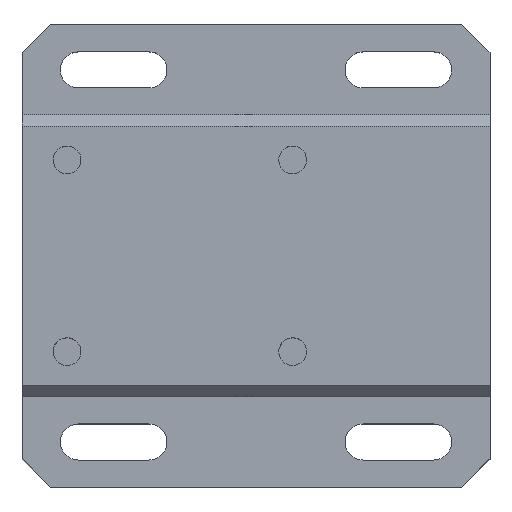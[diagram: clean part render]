
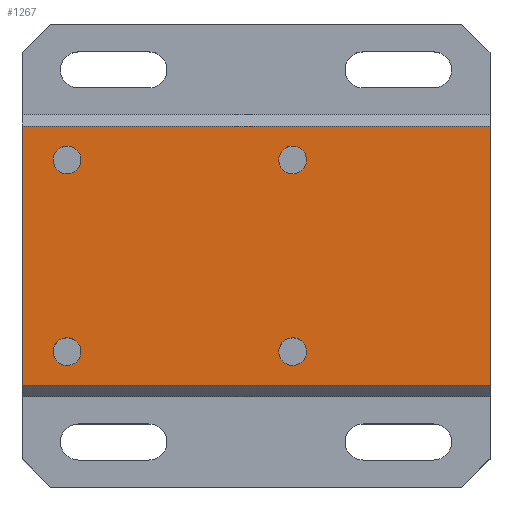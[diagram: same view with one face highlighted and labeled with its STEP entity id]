
A CAD part, top view. The second image highlights one B-rep face of the part: STEP entity #1267.
In plain terms, the highlighted planar face has unit normal (0, 0, 1).
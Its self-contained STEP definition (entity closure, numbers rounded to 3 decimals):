
#567=CARTESIAN_POINT('Axis2P3D Location',(-33.5,17.,31.9)) ;
#571=CARTESIAN_POINT('Vertex',(-31.342,15.821,31.9)) ;
#573=CARTESIAN_POINT('Vertex',(-35.658,18.179,31.9)) ;
#593=CARTESIAN_POINT('Axis2P3D Location',(-33.5,17.,31.9)) ;
#629=CARTESIAN_POINT('Axis2P3D Location',(6.5,-17.,31.9)) ;
#633=CARTESIAN_POINT('Vertex',(4.342,-15.821,31.9)) ;
#635=CARTESIAN_POINT('Vertex',(8.658,-18.179,31.9)) ;
#655=CARTESIAN_POINT('Axis2P3D Location',(6.5,-17.,31.9)) ;
#691=CARTESIAN_POINT('Axis2P3D Location',(-33.5,-17.,31.9)) ;
#695=CARTESIAN_POINT('Vertex',(-35.658,-15.821,31.9)) ;
#697=CARTESIAN_POINT('Vertex',(-31.342,-18.179,31.9)) ;
#717=CARTESIAN_POINT('Axis2P3D Location',(-33.5,-17.,31.9)) ;
#753=CARTESIAN_POINT('Axis2P3D Location',(6.5,17.,31.9)) ;
#757=CARTESIAN_POINT('Vertex',(4.342,18.179,31.9)) ;
#759=CARTESIAN_POINT('Vertex',(8.658,15.821,31.9)) ;
#779=CARTESIAN_POINT('Axis2P3D Location',(6.5,17.,31.9)) ;
#1164=CARTESIAN_POINT('Line Origine',(0.,-23.,31.9)) ;
#1168=CARTESIAN_POINT('Vertex',(-41.5,-23.,31.9)) ;
#1170=CARTESIAN_POINT('Vertex',(41.5,-23.,31.9)) ;
#1221=CARTESIAN_POINT('Axis2P3D Location',(0.,0.,31.9)) ;
#1226=CARTESIAN_POINT('Line Origine',(-41.5,0.,31.9)) ;
#1230=CARTESIAN_POINT('Vertex',(-41.5,23.,31.9)) ;
#1233=CARTESIAN_POINT('Line Origine',(41.5,0.,31.9)) ;
#1237=CARTESIAN_POINT('Vertex',(41.5,23.,31.9)) ;
#1240=CARTESIAN_POINT('Line Origine',(0.,23.,31.9)) ;
#568=DIRECTION('Axis2P3D Direction',(0.,-0.,-1.)) ;
#594=DIRECTION('Axis2P3D Direction',(0.,-0.,-1.)) ;
#630=DIRECTION('Axis2P3D Direction',(0.,0.,-1.)) ;
#656=DIRECTION('Axis2P3D Direction',(0.,0.,-1.)) ;
#692=DIRECTION('Axis2P3D Direction',(0.,0.,-1.)) ;
#718=DIRECTION('Axis2P3D Direction',(0.,0.,-1.)) ;
#754=DIRECTION('Axis2P3D Direction',(0.,0.,-1.)) ;
#780=DIRECTION('Axis2P3D Direction',(0.,0.,-1.)) ;
#1165=DIRECTION('Vector Direction',(-1.,0.,0.)) ;
#1222=DIRECTION('Axis2P3D Direction',(0.,0.,1.)) ;
#1223=DIRECTION('Axis2P3D XDirection',(1.,0.,0.)) ;
#1227=DIRECTION('Vector Direction',(0.,-1.,0.)) ;
#1234=DIRECTION('Vector Direction',(0.,1.,0.)) ;
#1241=DIRECTION('Vector Direction',(1.,0.,0.)) ;
#569=AXIS2_PLACEMENT_3D('Circle Axis2P3D',#567,#568,$) ;
#595=AXIS2_PLACEMENT_3D('Circle Axis2P3D',#593,#594,$) ;
#631=AXIS2_PLACEMENT_3D('Circle Axis2P3D',#629,#630,$) ;
#657=AXIS2_PLACEMENT_3D('Circle Axis2P3D',#655,#656,$) ;
#693=AXIS2_PLACEMENT_3D('Circle Axis2P3D',#691,#692,$) ;
#719=AXIS2_PLACEMENT_3D('Circle Axis2P3D',#717,#718,$) ;
#755=AXIS2_PLACEMENT_3D('Circle Axis2P3D',#753,#754,$) ;
#781=AXIS2_PLACEMENT_3D('Circle Axis2P3D',#779,#780,$) ;
#1224=AXIS2_PLACEMENT_3D('Plane Axis2P3D',#1221,#1222,#1223) ;
#1246=ORIENTED_EDGE('',*,*,#1232,.T.) ;
#1247=ORIENTED_EDGE('',*,*,#1172,.T.) ;
#1248=ORIENTED_EDGE('',*,*,#1239,.T.) ;
#1249=ORIENTED_EDGE('',*,*,#1244,.T.) ;
#1252=ORIENTED_EDGE('',*,*,#597,.F.) ;
#1253=ORIENTED_EDGE('',*,*,#575,.F.) ;
#1256=ORIENTED_EDGE('',*,*,#783,.F.) ;
#1257=ORIENTED_EDGE('',*,*,#761,.F.) ;
#1260=ORIENTED_EDGE('',*,*,#721,.F.) ;
#1261=ORIENTED_EDGE('',*,*,#699,.F.) ;
#1264=ORIENTED_EDGE('',*,*,#659,.F.) ;
#1265=ORIENTED_EDGE('',*,*,#637,.F.) ;
#1254=FACE_BOUND('',#1251,.T.) ;
#1258=FACE_BOUND('',#1255,.T.) ;
#1262=FACE_BOUND('',#1259,.T.) ;
#1266=FACE_BOUND('',#1263,.T.) ;
#1166=VECTOR('Line Direction',#1165,1.) ;
#1228=VECTOR('Line Direction',#1227,1.) ;
#1235=VECTOR('Line Direction',#1234,1.) ;
#1242=VECTOR('Line Direction',#1241,1.) ;
#1267=ADVANCED_FACE('\X2\96F64EF651E04F554F53\X0\',(#1250,#1254,#1258,#1262,#1266),#1225,.T.) ;
#570=CIRCLE('generated circle',#569,2.459) ;
#596=CIRCLE('generated circle',#595,2.459) ;
#632=CIRCLE('generated circle',#631,2.459) ;
#658=CIRCLE('generated circle',#657,2.459) ;
#694=CIRCLE('generated circle',#693,2.459) ;
#720=CIRCLE('generated circle',#719,2.459) ;
#756=CIRCLE('generated circle',#755,2.459) ;
#782=CIRCLE('generated circle',#781,2.459) ;
#575=EDGE_CURVE('',#572,#574,#570,.F.) ;
#597=EDGE_CURVE('',#574,#572,#596,.F.) ;
#637=EDGE_CURVE('',#634,#636,#632,.F.) ;
#659=EDGE_CURVE('',#636,#634,#658,.F.) ;
#699=EDGE_CURVE('',#696,#698,#694,.F.) ;
#721=EDGE_CURVE('',#698,#696,#720,.F.) ;
#761=EDGE_CURVE('',#758,#760,#756,.F.) ;
#783=EDGE_CURVE('',#760,#758,#782,.F.) ;
#1172=EDGE_CURVE('',#1169,#1171,#1167,.F.) ;
#1232=EDGE_CURVE('',#1231,#1169,#1229,.T.) ;
#1239=EDGE_CURVE('',#1171,#1238,#1236,.T.) ;
#1244=EDGE_CURVE('',#1238,#1231,#1243,.F.) ;
#1245=EDGE_LOOP('',(#1246,#1247,#1248,#1249)) ;
#1251=EDGE_LOOP('',(#1252,#1253)) ;
#1255=EDGE_LOOP('',(#1256,#1257)) ;
#1259=EDGE_LOOP('',(#1260,#1261)) ;
#1263=EDGE_LOOP('',(#1264,#1265)) ;
#1250=FACE_OUTER_BOUND('',#1245,.T.) ;
#1167=LINE('Line',#1164,#1166) ;
#1229=LINE('Line',#1226,#1228) ;
#1236=LINE('Line',#1233,#1235) ;
#1243=LINE('Line',#1240,#1242) ;
#1225=PLANE('Plane',#1224) ;
#572=VERTEX_POINT('',#571) ;
#574=VERTEX_POINT('',#573) ;
#634=VERTEX_POINT('',#633) ;
#636=VERTEX_POINT('',#635) ;
#696=VERTEX_POINT('',#695) ;
#698=VERTEX_POINT('',#697) ;
#758=VERTEX_POINT('',#757) ;
#760=VERTEX_POINT('',#759) ;
#1169=VERTEX_POINT('',#1168) ;
#1171=VERTEX_POINT('',#1170) ;
#1231=VERTEX_POINT('',#1230) ;
#1238=VERTEX_POINT('',#1237) ;
